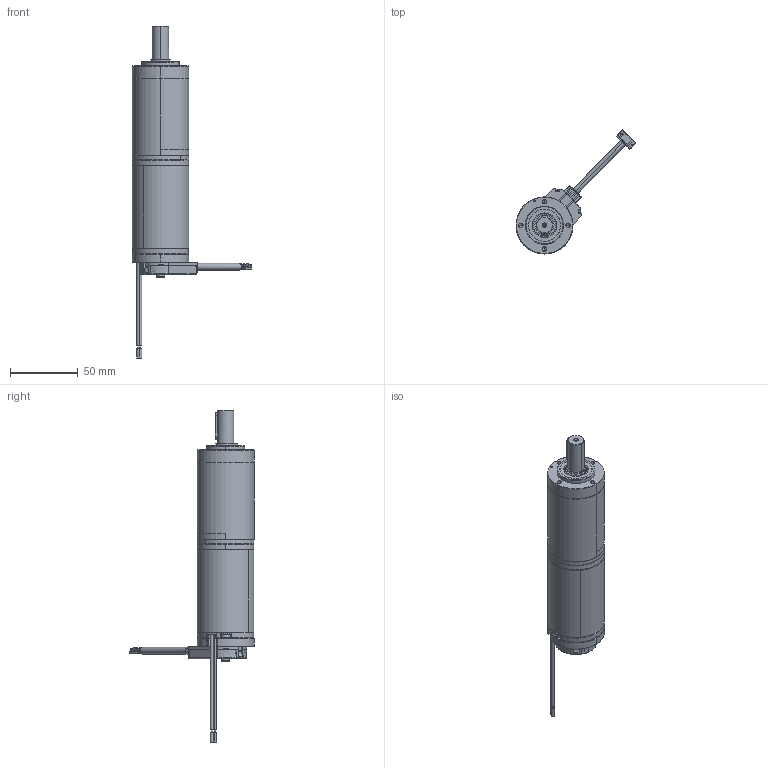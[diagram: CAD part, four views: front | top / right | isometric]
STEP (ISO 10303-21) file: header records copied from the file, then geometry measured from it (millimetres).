
FILE_DESCRIPTION (( 'STEP AP214' ), '1' );
FILE_NAME ('BRx42-25-PGx42 (3 Stage) - Incr Encoder.STEP', '2025-05-12T11:19:44', ( '' ), ( '' ), 'SwSTEP 2.0', 'SolidWorks 2023', '' );
FILE_SCHEMA (( 'AUTOMOTIVE_DESIGN' ));
Length unit declared in the file: millimetre
Products named in the file (1): BRx42-25-PGx42 (3 Stage) - Incr Encoder
Bounding box: 88.58 x 91.67 x 245.35 mm (x, y, z)
Volume: 144934.6 mm3; surface area: 71117.9 mm2
Topology: 34 solids, 34 shells, 3659 faces, 9404 edges, 5992 vertices
Faces by surface type: plane 1908, cylinder 727, cone 525, torus 237, bspline 234, sphere 28
Entity records: 164617 total; most frequent: CARTESIAN_POINT 35958, ORIENTED_EDGE 18760, DIRECTION 17681, EDGE_CURVE 9380, AXIS2_PLACEMENT_3D 6244, VERTEX_POINT 5992, LINE 5193, VECTOR 5193
